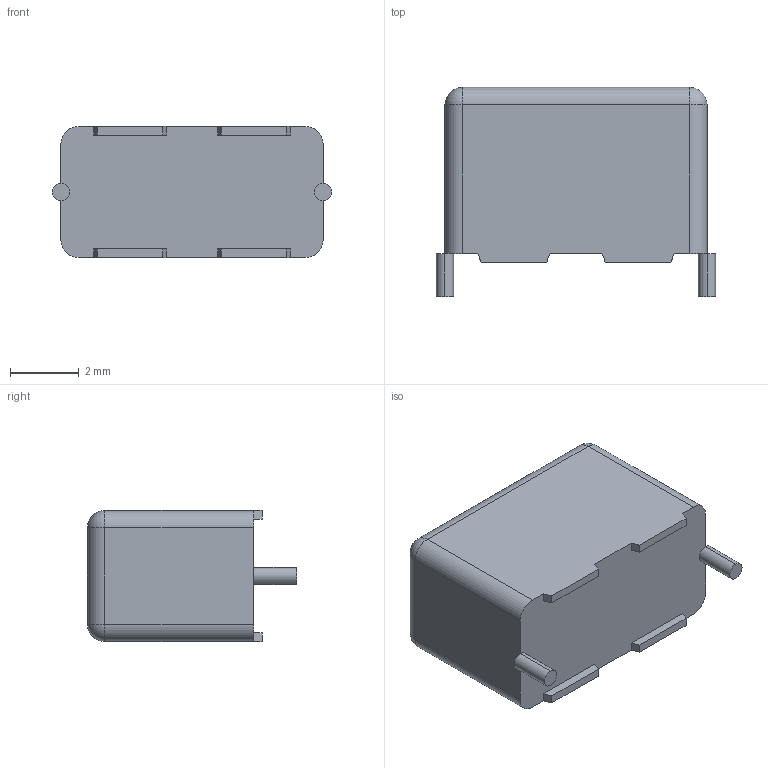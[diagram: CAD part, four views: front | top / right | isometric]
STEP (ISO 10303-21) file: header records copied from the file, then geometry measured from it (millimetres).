
FILE_DESCRIPTION (( 'STEP AP214' ), '1' );
FILE_NAME ( 'CAPRR762W50L762T381H508P.STEP', '2014-04-11T12:31:23', ( '' ), ( '' ), 'FPX Expert 2013', 'PCB Libraries', '' );
FILE_SCHEMA (( 'AUTOMOTIVE_DESIGN' ));
Length unit declared in the file: millimetre
Products named in the file (1): CAPRR762W50L762T381H508P
Bounding box: 8.12 x 6.08 x 3.81 mm (x, y, z)
Volume: 139 mm3; surface area: 168.1 mm2
Topology: 3 solids, 3 shells, 42 faces, 100 edges, 60 vertices
Faces by surface type: plane 26, cylinder 12, sphere 4
Entity records: 1342 total; most frequent: DIRECTION 206, CARTESIAN_POINT 199, ORIENTED_EDGE 192, EDGE_CURVE 96, VECTOR 72, LINE 72, AXIS2_PLACEMENT_3D 67, VERTEX_POINT 60
